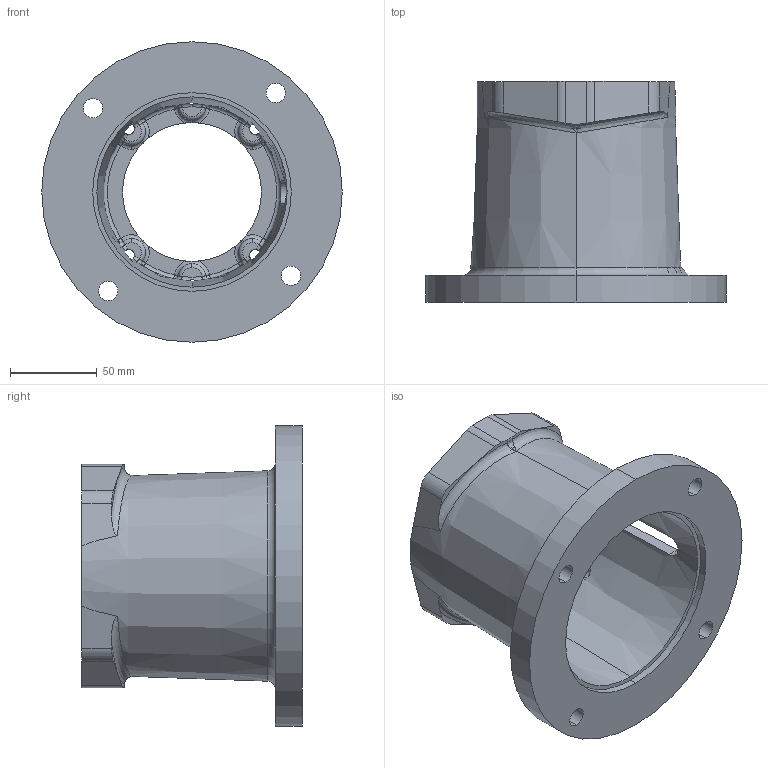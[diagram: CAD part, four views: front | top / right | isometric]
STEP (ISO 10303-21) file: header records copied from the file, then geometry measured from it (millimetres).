
FILE_DESCRIPTION (( 'STEP AP203' ), '1' );
FILE_NAME ('M0565080M.STEP', '2015-01-19T15:34:04', ( '' ), ( '' ), 'SwSTEP 2.0', 'SolidWorks 2014', '' );
FILE_SCHEMA (( 'CONFIG_CONTROL_DESIGN' ));
Length unit declared in the file: inch
Products named in the file (1): M0565080M
Bounding box: 172.97 x 127 x 172.97 mm (x, y, z)
Volume: 526949.7 mm3; surface area: 130879.5 mm2
Topology: 1 solids, 1 shells, 190 faces, 510 edges, 299 vertices
Faces by surface type: torus 46, cylinder 38, plane 32, bspline 30, sphere 24, cone 20
Entity records: 8146 total; most frequent: CARTESIAN_POINT 3559, ORIENTED_EDGE 984, DIRECTION 960, EDGE_CURVE 492, AXIS2_PLACEMENT_3D 439, VERTEX_POINT 299, CIRCLE 278, EDGE_LOOP 209
